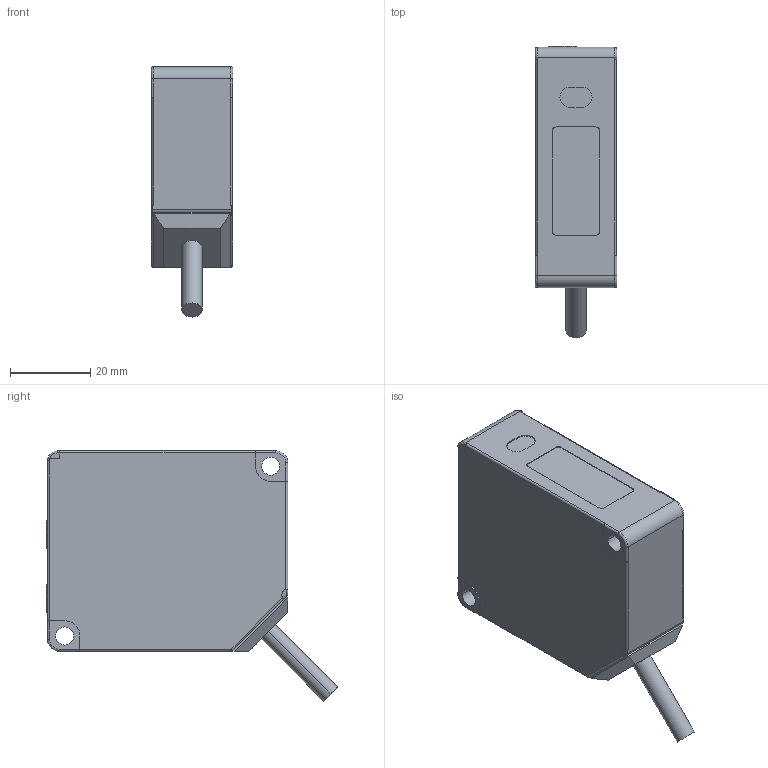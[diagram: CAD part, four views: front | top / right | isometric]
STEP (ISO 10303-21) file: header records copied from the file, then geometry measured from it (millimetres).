
FILE_DESCRIPTION(('OneSpaceDesigner STEP Export'),'2;1');
FILE_NAME('CD33 CABLE@TYPE.stp','2009-05-08T17:57:53',(''),(''),'OneSpace Designer STEP processor for AP214 (Solid Model)','OneSpace Modeling 15.00A 14-Mar-2007 (C) CoCreate Software GmbH','');
FILE_SCHEMA(('AUTOMOTIVE_DESIGN { 1 0 10303 214 1 1 1 1 }'));
Products named in the file (2): Case-Cable
Assembly tree (1 placements, depth 2):
  Case-Cable
    Case-Cable
Bounding box: 20.4 x 72.76 x 62.45 mm (x, y, z)
Volume: 58569.3 mm3; surface area: 10890.8 mm2
Topology: 1 solids, 1 shells, 3727 faces, 10821 edges, 7203 vertices
Faces by surface type: plane 3613, cylinder 98, torus 14, sphere 2
Entity records: 121245 total; most frequent: CARTESIAN_POINT 22256, ORIENTED_EDGE 21638, DIRECTION 18285, EDGE_CURVE 10819, VECTOR 10597, LINE 10597, VERTEX_POINT 7203, AXIS2_PLACEMENT_3D 3844
